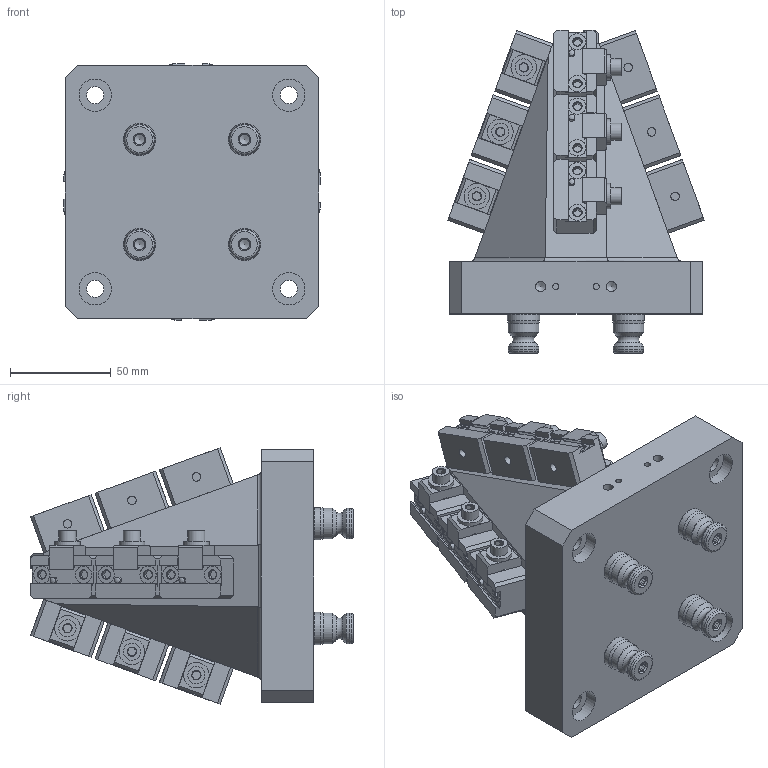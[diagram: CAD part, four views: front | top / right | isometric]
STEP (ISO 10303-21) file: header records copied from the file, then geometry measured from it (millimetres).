
FILE_DESCRIPTION (( 'STEP AP214' ), '1' );
FILE_NAME ('A52-P12DM12_WEBSITE.STEP', '2025-08-13T05:16:48', ( '' ), ( '' ), 'SwSTEP 2.0', 'SolidWorks 2025', '' );
FILE_SCHEMA (( 'AUTOMOTIVE_DESIGN' ));
Length unit declared in the file: millimetre
Products named in the file (14): D_CLW10M_WEBSITE_CLW10; D_91290A242_BLACK-OXIDE CLASS 12.9 SOCKET HEAD CAP SCREW_WEBSITE_91290A242; D_HW 76124_WEBSITE_90605A129; M8X20.FPSS_WEBSITE_93245A145; A52-P12DM12_WEBSITE; PS16F_WEBSITE; D_HW.LC020CD01M_WEBSITE_1986K65; D_91595A100_METRIC ALLOY STEEL DOWEL PIN_WEBSITE_91595A100; D_DM12_WEBSITE; D_AU-P12DM12-1_WEBSITE; D_91595A108_METRIC ALLOY STEEL DOWEL PIN_WEBSITE_91595A108; D_DM12-1_WEBSITE_D051251WM; D_HW.0203X0500.FW_WEBSITE_DEFAULT; PS16F-1_WEBSITE_HARD TURN
Assembly tree (29 placements, depth 3):
  A52-P12DM12_WEBSITE
    D_AU-P12DM12-1_WEBSITE
    D_DM12_WEBSITE  x12
      D_DM12-1_WEBSITE_D051251WM
      D_CLW10M_WEBSITE_CLW10
      D_HW.0203X0500.FW_WEBSITE_DEFAULT
      D_91595A100_METRIC ALLOY STEEL DOWEL PIN_WEBSITE_91595A100
      D_91595A108_METRIC ALLOY STEEL DOWEL PIN_WEBSITE_91595A108
      D_91290A242_BLACK-OXIDE CLASS 12.9 SOCKET HEAD CAP SCREW_WEBSITE_91290A242
      D_HW.LC020CD01M_WEBSITE_1986K65
      D_HW 76124_WEBSITE_90605A129
    PS16F_WEBSITE  x4
      PS16F-1_WEBSITE_HARD TURN
      M8X20.FPSS_WEBSITE_93245A145
Bounding box: 127.13 x 160.06 x 127.13 mm (x, y, z)
Volume: 952972.4 mm3; surface area: 182694 mm2
Topology: 129 solids, 129 shells, 2069 faces, 4417 edges, 2750 vertices
Faces by surface type: plane 1078, cylinder 471, cone 384, sphere 72, bspline 36, torus 28
Full cylindrical faces by diameter (mm): 2.997 x36, 3 x36, 3.025 x40, 3.03 x4, 3.3 x2, 4 x2, 4.2 x52, 5 x38, 5.159 x12, 5.182 x12, 5.25 x4, 5.3 x24, 6.756 x12, 6.8 x8, 8 x8, 8.5 x40, 8.6 x24, 11.991 x4, 12.017 x4, 12.7 x12, 15.202 x8, 15.24 x1, 15.997 x4, 16.02 x4
Entity records: 11161 total; most frequent: CARTESIAN_POINT 2876, DIRECTION 1713, ORIENTED_EDGE 1174, AXIS2_PLACEMENT_3D 745, EDGE_LOOP 691, EDGE_CURVE 587, FACE_OUTER_BOUND 544, VERTEX_POINT 478
